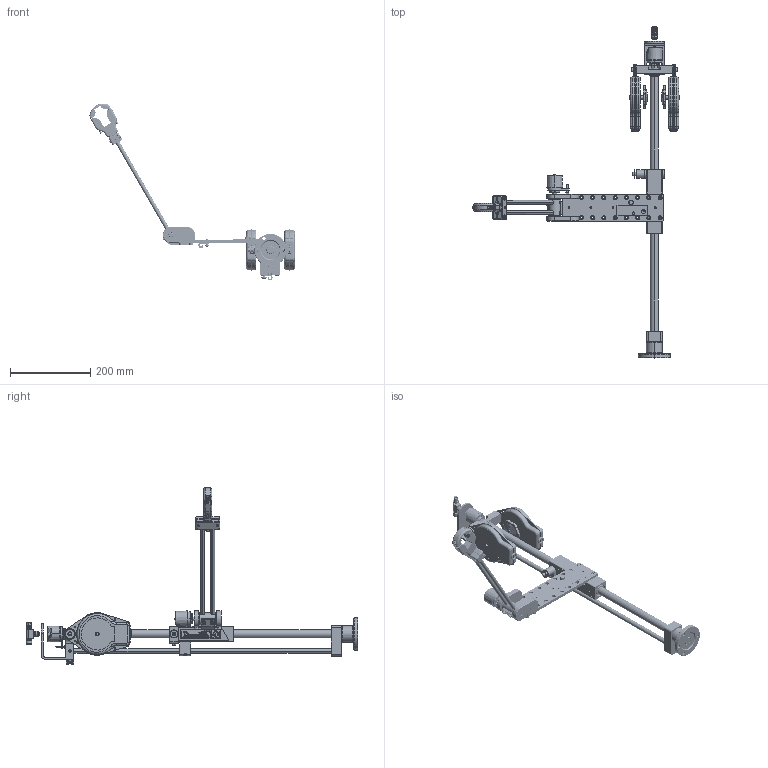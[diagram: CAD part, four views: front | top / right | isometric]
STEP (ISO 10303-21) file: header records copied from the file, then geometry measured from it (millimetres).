
FILE_DESCRIPTION((''),'2;1');
FILE_NAME('6158122720','2017-08-28T',('greextsd'),(''),'CREO PARAMETRIC BY PTC INC, 2017020','CREO PARAMETRIC BY PTC INC, 2017020','');
FILE_SCHEMA(('AUTOMOTIVE_DESIGN { 1 0 10303 214 1 1 1 1 }'));
Products named in the file (1): 6158122720
Bounding box: 513.73 x 826.4 x 439.61 mm (x, y, z)
Volume: 1269538 mm3; surface area: 491299.6 mm2
Topology: 210 solids, 290 shells, 3545 faces, 8998 edges, 5360 vertices
Faces by surface type: cylinder 1213, plane 1155, sphere 400, cone 359, torus 284, extrusion 76, bspline 58
Entity records: 122993 total; most frequent: CARTESIAN_POINT 24575, DIRECTION 18233, ORIENTED_EDGE 16034, EDGE_CURVE 8161, AXIS2_PLACEMENT_3D 7286, VERTEX_POINT 5356, EDGE_LOOP 4025, CIRCLE 3874
